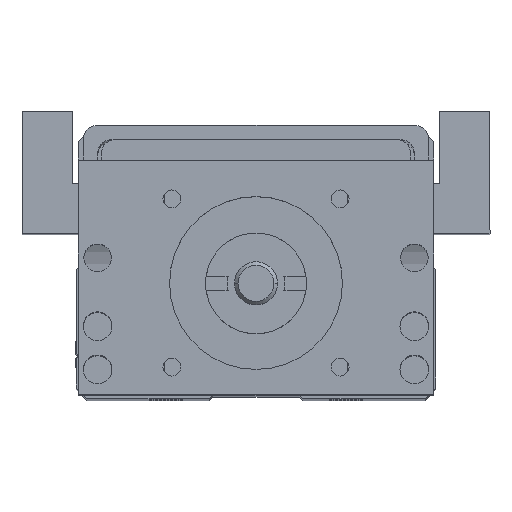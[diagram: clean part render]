
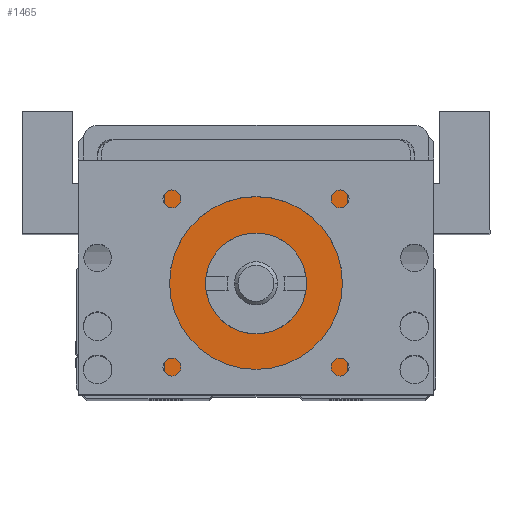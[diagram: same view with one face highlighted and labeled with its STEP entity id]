
A CAD part, top view. The second image highlights one B-rep face of the part: STEP entity #1465.
In plain terms, the highlighted planar face has unit normal (0, 0, 1).
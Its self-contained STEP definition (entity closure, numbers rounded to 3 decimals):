
#1394 = ORIENTED_EDGE ( 'NONE', *, *, #1471, .T. ) ;
#1396 = EDGE_CURVE ( 'NONE', #1405, #1406, #5950, .T. ) ;
#1399 = EDGE_LOOP ( 'NONE', ( #1467, #1470, #1394, #1473 ) ) ;
#1405 = VERTEX_POINT ( 'NONE', #6044 ) ;
#1406 = VERTEX_POINT ( 'NONE', #6042 ) ;
#1409 = EDGE_CURVE ( 'NONE', #3456, #3470, #6037, .T. ) ;
#1457 = ORIENTED_EDGE ( 'NONE', *, *, #1409, .F. ) ;
#1459 = ORIENTED_EDGE ( 'NONE', *, *, #3394, .F. ) ;
#1465 = ADVANCED_FACE ( 'NONE', ( #6133, #6127 ), #6085, .F. ) ;
#1466 = VERTEX_POINT ( 'NONE', #6124 ) ;
#1467 = ORIENTED_EDGE ( 'NONE', *, *, #1396, .F. ) ;
#1468 = EDGE_CURVE ( 'NONE', #1405, #1469, #6123, .T. ) ;
#1469 = VERTEX_POINT ( 'NONE', #6119 ) ;
#1470 = ORIENTED_EDGE ( 'NONE', *, *, #1468, .T. ) ;
#1471 = EDGE_CURVE ( 'NONE', #1469, #1466, #6120, .T. ) ;
#1472 = EDGE_CURVE ( 'NONE', #1466, #1406, #6176, .T. ) ;
#1473 = ORIENTED_EDGE ( 'NONE', *, *, #1472, .T. ) ;
#1474 = EDGE_LOOP ( 'NONE', ( #1457, #1459 ) ) ;
#3394 = EDGE_CURVE ( 'NONE', #3470, #3456, #9173, .T. ) ;
#3456 = VERTEX_POINT ( 'NONE', #9294 ) ;
#3470 = VERTEX_POINT ( 'NONE', #9329 ) ;
#5949 = CARTESIAN_POINT ( 'NONE',  ( -6.008, 0.5, 86.5 ) ) ;
#5950 = LINE ( 'NONE', #5949, #5993 ) ;
#5992 = DIRECTION ( 'NONE',  ( -1., 0., 0. ) ) ;
#5993 = VECTOR ( 'NONE', #5992, 1000. ) ;
#6031 = DIRECTION ( 'NONE',  ( -1., 0., 0. ) ) ;
#6032 = DIRECTION ( 'NONE',  ( 0., 0., 1. ) ) ;
#6033 = CARTESIAN_POINT ( 'NONE',  ( 0., 16., 86.5 ) ) ;
#6034 = AXIS2_PLACEMENT_3D ( 'NONE', #6033, #6032, #6031 ) ;
#6037 = CIRCLE ( 'NONE', #6034, 7. ) ;
#6042 = CARTESIAN_POINT ( 'NONE',  ( -12.7, 0.5, 86.5 ) ) ;
#6044 = CARTESIAN_POINT ( 'NONE',  ( 12.7, 0.5, 86.5 ) ) ;
#6085 = PLANE ( 'NONE',  #6126 ) ;
#6095 = CARTESIAN_POINT ( 'NONE',  ( -14.7, 0., 86.5 ) ) ;
#6111 = DIRECTION ( 'NONE',  ( -1., 0., 0. ) ) ;
#6112 = VECTOR ( 'NONE', #6111, 1000. ) ;
#6113 = CARTESIAN_POINT ( 'NONE',  ( -14.7, 33., 86.5 ) ) ;
#6116 = DIRECTION ( 'NONE',  ( 0., 1., 0. ) ) ;
#6117 = VECTOR ( 'NONE', #6116, 1000. ) ;
#6118 = CARTESIAN_POINT ( 'NONE',  ( 12.7, 33., 86.5 ) ) ;
#6119 = CARTESIAN_POINT ( 'NONE',  ( 12.7, 33., 86.5 ) ) ;
#6120 = LINE ( 'NONE', #6113, #6112 ) ;
#6121 = DIRECTION ( 'NONE',  ( -1., 0., 0. ) ) ;
#6122 = DIRECTION ( 'NONE',  ( 0., 0., -1. ) ) ;
#6123 = LINE ( 'NONE', #6118, #6117 ) ;
#6124 = CARTESIAN_POINT ( 'NONE',  ( -12.7, 33., 86.5 ) ) ;
#6126 = AXIS2_PLACEMENT_3D ( 'NONE', #6095, #6122, #6121 ) ;
#6127 = FACE_BOUND ( 'NONE', #1474, .T. ) ;
#6133 = FACE_OUTER_BOUND ( 'NONE', #1399, .T. ) ;
#6173 = DIRECTION ( 'NONE',  ( 0., -1., 0. ) ) ;
#6174 = VECTOR ( 'NONE', #6173, 1000. ) ;
#6175 = CARTESIAN_POINT ( 'NONE',  ( -12.7, 0.5, 86.5 ) ) ;
#6176 = LINE ( 'NONE', #6175, #6174 ) ;
#9163 = CARTESIAN_POINT ( 'NONE',  ( 0., 16., 86.5 ) ) ;
#9168 = DIRECTION ( 'NONE',  ( 0., 0., 1. ) ) ;
#9170 = AXIS2_PLACEMENT_3D ( 'NONE', #9163, #9168, #9190 ) ;
#9173 = CIRCLE ( 'NONE', #9170, 7. ) ;
#9190 = DIRECTION ( 'NONE',  ( -1., 0., 0. ) ) ;
#9294 = CARTESIAN_POINT ( 'NONE',  ( -7., 16., 86.5 ) ) ;
#9329 = CARTESIAN_POINT ( 'NONE',  ( 7., 16., 86.5 ) ) ;
